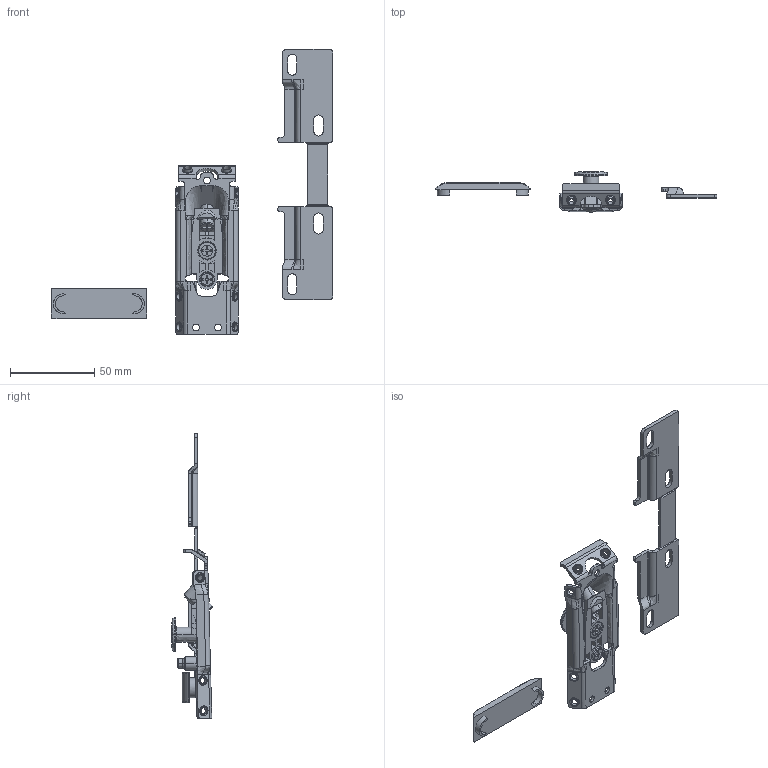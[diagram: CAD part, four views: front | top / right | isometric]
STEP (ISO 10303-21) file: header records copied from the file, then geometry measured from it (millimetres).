
FILE_DESCRIPTION (( 'STEP AP203' ), '1' );
FILE_NAME ('IF Libra H1 rektifikaèní kování sada_361269.STEP', '2023-03-20T10:15:51', ( '' ), ( '' ), 'SwSTEP 2.0', 'SolidWorks 2019', '' );
FILE_SCHEMA (( 'CONFIG_CONTROL_DESIGN' ));
Products named in the file (4): IF Libra H1 rektifikaèní kování sada_361269; 361269_závìsný plech; 361269_krytka; 361269_kování
Assembly tree (3 placements, depth 2):
  IF Libra H1 rektifikaèní kování sada_361269
    361269_kování
    361269_krytka
    361269_závìsný plech
Bounding box: 166.75 x 23.95 x 168.71 mm (x, y, z)
Volume: 11290.8 mm3; surface area: 25342.2 mm2
Topology: 2 solids, 3 shells, 2010 faces, 5489 edges, 3548 vertices
Faces by surface type: bspline 2010
Entity records: 72850 total; most frequent: CARTESIAN_POINT 28883, ORIENTED_EDGE 10936, EDGE_CURVE 5468, DIRECTION 5363, LINE 4421, VECTOR 4421, VERTEX_POINT 3550, EDGE_LOOP 2138
